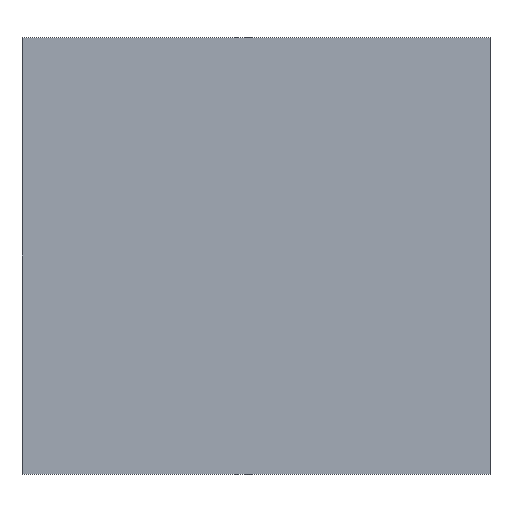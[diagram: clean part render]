
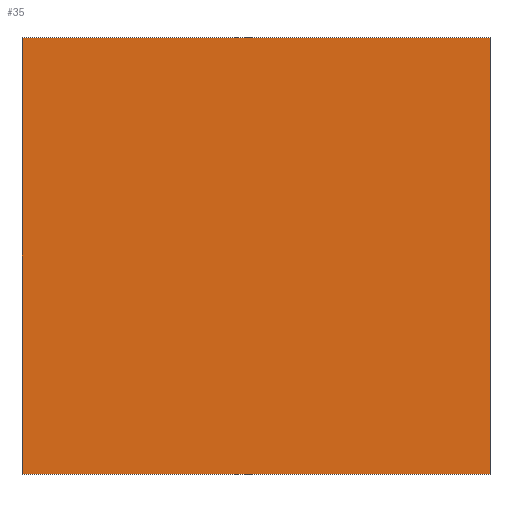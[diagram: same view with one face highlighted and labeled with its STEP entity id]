
A CAD part, left-side view. The second image highlights one B-rep face of the part: STEP entity #35.
In plain terms, the highlighted planar face has unit normal (-1, 0, 0).
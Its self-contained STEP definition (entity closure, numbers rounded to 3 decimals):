
#35 = ADVANCED_FACE('',(#36),#50,.F.);
#36 = FACE_BOUND('',#37,.F.);
#37 = EDGE_LOOP('',(#38,#73,#101,#129));
#38 = ORIENTED_EDGE('',*,*,#39,.F.);
#39 = EDGE_CURVE('',#40,#42,#44,.T.);
#40 = VERTEX_POINT('',#41);
#41 = CARTESIAN_POINT('',(-1.5,-15.,-14.));
#42 = VERTEX_POINT('',#43);
#43 = CARTESIAN_POINT('',(-1.5,-15.,14.));
#44 = SURFACE_CURVE('',#45,(#49,#61),.PCURVE_S1.);
#45 = LINE('',#46,#47);
#46 = CARTESIAN_POINT('',(-1.5,-15.,-14.));
#47 = VECTOR('',#48,1.);
#48 = DIRECTION('',(0.,0.,1.));
#49 = PCURVE('',#50,#55);
#50 = PLANE('',#51);
#51 = AXIS2_PLACEMENT_3D('',#52,#53,#54);
#52 = CARTESIAN_POINT('',(-1.5,-15.,-14.));
#53 = DIRECTION('',(1.,0.,-0.));
#54 = DIRECTION('',(0.,0.,1.));
#55 = DEFINITIONAL_REPRESENTATION('',(#56),#60);
#56 = LINE('',#57,#58);
#57 = CARTESIAN_POINT('',(0.,0.));
#58 = VECTOR('',#59,1.);
#59 = DIRECTION('',(1.,0.));
#60 = ( GEOMETRIC_REPRESENTATION_CONTEXT(2) 
PARAMETRIC_REPRESENTATION_CONTEXT() REPRESENTATION_CONTEXT('2D SPACE',''
  ) );
#61 = PCURVE('',#62,#67);
#62 = PLANE('',#63);
#63 = AXIS2_PLACEMENT_3D('',#64,#65,#66);
#64 = CARTESIAN_POINT('',(-1.5,-15.,-14.));
#65 = DIRECTION('',(-0.,1.,0.));
#66 = DIRECTION('',(0.,0.,1.));
#67 = DEFINITIONAL_REPRESENTATION('',(#68),#72);
#68 = LINE('',#69,#70);
#69 = CARTESIAN_POINT('',(0.,0.));
#70 = VECTOR('',#71,1.);
#71 = DIRECTION('',(1.,0.));
#72 = ( GEOMETRIC_REPRESENTATION_CONTEXT(2) 
PARAMETRIC_REPRESENTATION_CONTEXT() REPRESENTATION_CONTEXT('2D SPACE',''
  ) );
#73 = ORIENTED_EDGE('',*,*,#74,.T.);
#74 = EDGE_CURVE('',#40,#75,#77,.T.);
#75 = VERTEX_POINT('',#76);
#76 = CARTESIAN_POINT('',(-1.5,15.,-14.));
#77 = SURFACE_CURVE('',#78,(#82,#89),.PCURVE_S1.);
#78 = LINE('',#79,#80);
#79 = CARTESIAN_POINT('',(-1.5,-15.,-14.));
#80 = VECTOR('',#81,1.);
#81 = DIRECTION('',(-0.,1.,0.));
#82 = PCURVE('',#50,#83);
#83 = DEFINITIONAL_REPRESENTATION('',(#84),#88);
#84 = LINE('',#85,#86);
#85 = CARTESIAN_POINT('',(0.,0.));
#86 = VECTOR('',#87,1.);
#87 = DIRECTION('',(0.,-1.));
#88 = ( GEOMETRIC_REPRESENTATION_CONTEXT(2) 
PARAMETRIC_REPRESENTATION_CONTEXT() REPRESENTATION_CONTEXT('2D SPACE',''
  ) );
#89 = PCURVE('',#90,#95);
#90 = PLANE('',#91);
#91 = AXIS2_PLACEMENT_3D('',#92,#93,#94);
#92 = CARTESIAN_POINT('',(-1.5,-15.,-14.));
#93 = DIRECTION('',(0.,0.,1.));
#94 = DIRECTION('',(1.,0.,-0.));
#95 = DEFINITIONAL_REPRESENTATION('',(#96),#100);
#96 = LINE('',#97,#98);
#97 = CARTESIAN_POINT('',(0.,0.));
#98 = VECTOR('',#99,1.);
#99 = DIRECTION('',(0.,1.));
#100 = ( GEOMETRIC_REPRESENTATION_CONTEXT(2) 
PARAMETRIC_REPRESENTATION_CONTEXT() REPRESENTATION_CONTEXT('2D SPACE',''
  ) );
#101 = ORIENTED_EDGE('',*,*,#102,.T.);
#102 = EDGE_CURVE('',#75,#103,#105,.T.);
#103 = VERTEX_POINT('',#104);
#104 = CARTESIAN_POINT('',(-1.5,15.,14.));
#105 = SURFACE_CURVE('',#106,(#110,#117),.PCURVE_S1.);
#106 = LINE('',#107,#108);
#107 = CARTESIAN_POINT('',(-1.5,15.,-14.));
#108 = VECTOR('',#109,1.);
#109 = DIRECTION('',(0.,0.,1.));
#110 = PCURVE('',#50,#111);
#111 = DEFINITIONAL_REPRESENTATION('',(#112),#116);
#112 = LINE('',#113,#114);
#113 = CARTESIAN_POINT('',(0.,-30.));
#114 = VECTOR('',#115,1.);
#115 = DIRECTION('',(1.,0.));
#116 = ( GEOMETRIC_REPRESENTATION_CONTEXT(2) 
PARAMETRIC_REPRESENTATION_CONTEXT() REPRESENTATION_CONTEXT('2D SPACE',''
  ) );
#117 = PCURVE('',#118,#123);
#118 = PLANE('',#119);
#119 = AXIS2_PLACEMENT_3D('',#120,#121,#122);
#120 = CARTESIAN_POINT('',(-1.5,15.,-14.));
#121 = DIRECTION('',(-0.,1.,0.));
#122 = DIRECTION('',(0.,0.,1.));
#123 = DEFINITIONAL_REPRESENTATION('',(#124),#128);
#124 = LINE('',#125,#126);
#125 = CARTESIAN_POINT('',(0.,0.));
#126 = VECTOR('',#127,1.);
#127 = DIRECTION('',(1.,0.));
#128 = ( GEOMETRIC_REPRESENTATION_CONTEXT(2) 
PARAMETRIC_REPRESENTATION_CONTEXT() REPRESENTATION_CONTEXT('2D SPACE',''
  ) );
#129 = ORIENTED_EDGE('',*,*,#130,.F.);
#130 = EDGE_CURVE('',#42,#103,#131,.T.);
#131 = SURFACE_CURVE('',#132,(#136,#143),.PCURVE_S1.);
#132 = LINE('',#133,#134);
#133 = CARTESIAN_POINT('',(-1.5,-15.,14.));
#134 = VECTOR('',#135,1.);
#135 = DIRECTION('',(-0.,1.,0.));
#136 = PCURVE('',#50,#137);
#137 = DEFINITIONAL_REPRESENTATION('',(#138),#142);
#138 = LINE('',#139,#140);
#139 = CARTESIAN_POINT('',(28.,0.));
#140 = VECTOR('',#141,1.);
#141 = DIRECTION('',(0.,-1.));
#142 = ( GEOMETRIC_REPRESENTATION_CONTEXT(2) 
PARAMETRIC_REPRESENTATION_CONTEXT() REPRESENTATION_CONTEXT('2D SPACE',''
  ) );
#143 = PCURVE('',#144,#149);
#144 = PLANE('',#145);
#145 = AXIS2_PLACEMENT_3D('',#146,#147,#148);
#146 = CARTESIAN_POINT('',(-1.5,-15.,14.));
#147 = DIRECTION('',(0.,0.,1.));
#148 = DIRECTION('',(1.,0.,-0.));
#149 = DEFINITIONAL_REPRESENTATION('',(#150),#154);
#150 = LINE('',#151,#152);
#151 = CARTESIAN_POINT('',(0.,0.));
#152 = VECTOR('',#153,1.);
#153 = DIRECTION('',(0.,1.));
#154 = ( GEOMETRIC_REPRESENTATION_CONTEXT(2) 
PARAMETRIC_REPRESENTATION_CONTEXT() REPRESENTATION_CONTEXT('2D SPACE',''
  ) );
